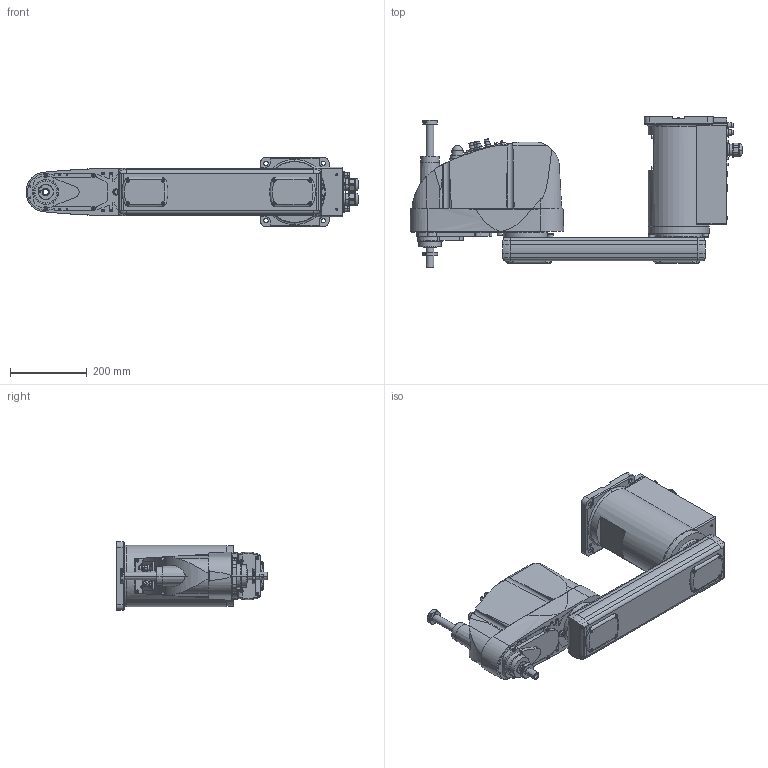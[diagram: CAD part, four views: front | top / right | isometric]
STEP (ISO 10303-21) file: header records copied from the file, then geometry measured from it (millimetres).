
FILE_DESCRIPTION( ( '' ), '1' );
FILE_NAME( '//expscmdclustefs.cadenas.external/client_exchange/iodir/jobs/output/wkb51545247_no0/STEP/G6_651SR_2_14b.stp', '2012-11-23T12:39:13', ( '' ), ( '' ), ' ', ' ', ' ' );
FILE_SCHEMA( ( 'automotive_design' ) );
Length unit declared in the file: millimetre
Products named in the file (4): 1; 2; 3; 4
Bounding box: 867.5 x 394 x 180 mm (x, y, z)
Volume: 20884697.5 mm3; surface area: 905112.7 mm2
Topology: 4 solids, 4 shells, 1607 faces, 3933 edges, 2535 vertices
Faces by surface type: plane 823, cylinder 554, cone 202, torus 27, sphere 1
Entity records: 95401 total; most frequent: CARTESIAN_POINT 11572, DIRECTION 8268, STYLED_ITEM 8053, PRESENTATION_STYLE_ASSIGNMENT 8053, COLOUR_RGB 8053, ORIENTED_EDGE 7814, EDGE_CURVE 3907, CURVE_STYLE 3907
